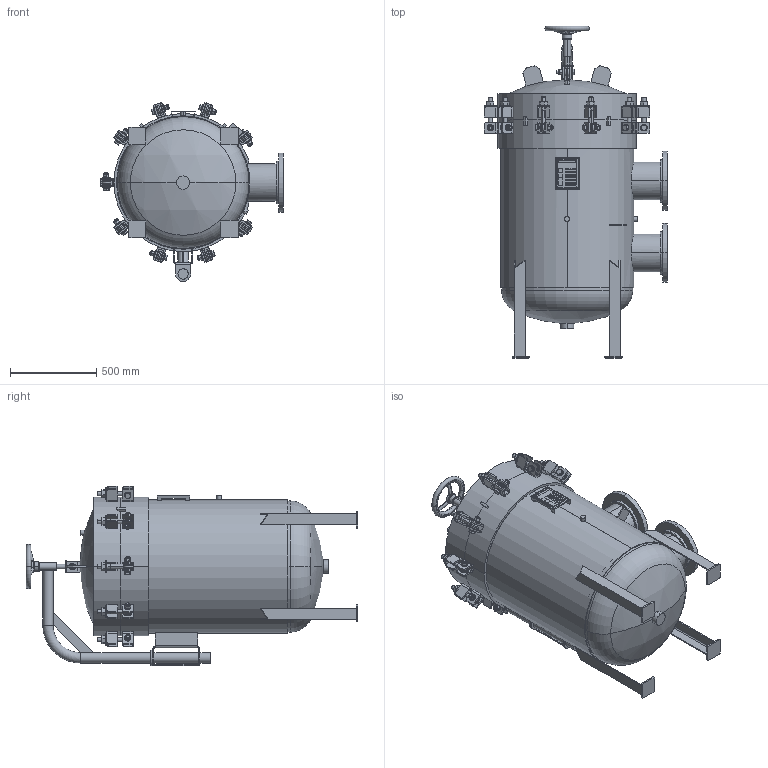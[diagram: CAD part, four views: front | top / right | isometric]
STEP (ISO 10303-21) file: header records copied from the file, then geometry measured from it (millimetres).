
FILE_DESCRIPTION (( 'STEP AP203' ), '1' );
FILE_NAME ('002004-01323.step', '2025-12-09T14:45:26', ( '' ), ( '' ), 'SwSTEP 2.0', 'SolidWorks 2023', '' );
FILE_SCHEMA (( 'CONFIG_CONTROL_DESIGN' ));
Length unit declared in the file: inch
Products named in the file (1): 002004-01323
Bounding box: 1065.21 x 1928.29 x 1040.52 mm (x, y, z)
Volume: 297325998.1 mm3; surface area: 9880604.2 mm2
Topology: 38 solids, 38 shells, 2059 faces, 4885 edges, 3051 vertices
Faces by surface type: plane 885, cylinder 602, cone 432, torus 94, bspline 36, sphere 10
Entity records: 67292 total; most frequent: CARTESIAN_POINT 20001, DIRECTION 9977, ORIENTED_EDGE 9746, EDGE_CURVE 4873, AXIS2_PLACEMENT_3D 3942, VERTEX_POINT 3051, EDGE_LOOP 2260, VECTOR 2093
